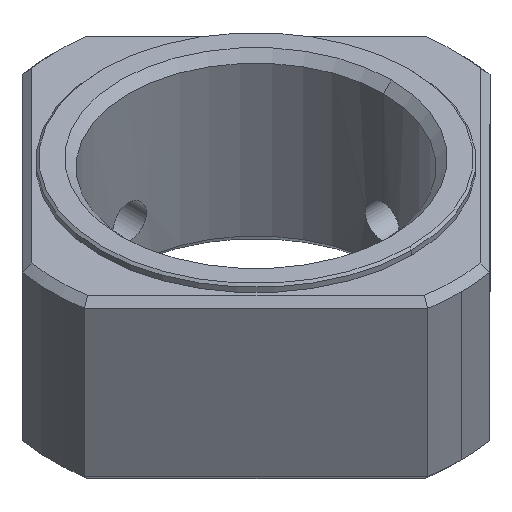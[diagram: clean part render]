
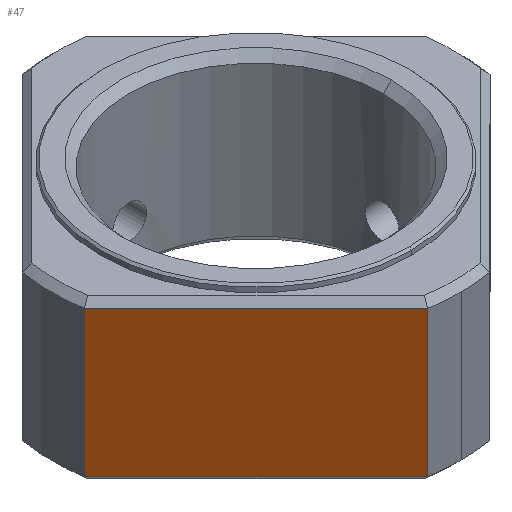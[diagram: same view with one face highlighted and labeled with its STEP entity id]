
A CAD part, isometric view. The second image highlights one B-rep face of the part: STEP entity #47.
In plain terms, the highlighted planar face has unit normal (-0.707, -0.707, 0).
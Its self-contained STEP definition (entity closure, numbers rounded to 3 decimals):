
#28 = VERTEX_POINT ( 'NONE', #563 ) ;
#47 = ADVANCED_FACE ( 'NONE', ( #518 ), #725, .T. ) ;
#53 = EDGE_CURVE ( 'NONE', #151, #28, #650, .T. ) ;
#67 = EDGE_LOOP ( 'NONE', ( #504, #473, #508, #468 ) ) ;
#115 = VERTEX_POINT ( 'NONE', #680 ) ;
#122 = VERTEX_POINT ( 'NONE', #791 ) ;
#151 = VERTEX_POINT ( 'NONE', #915 ) ;
#461 = EDGE_CURVE ( 'NONE', #115, #122, #1398, .T. ) ;
#467 = EDGE_CURVE ( 'NONE', #28, #115, #1509, .T. ) ;
#468 = ORIENTED_EDGE ( 'NONE', *, *, #506, .T. ) ;
#473 = ORIENTED_EDGE ( 'NONE', *, *, #467, .T. ) ;
#504 = ORIENTED_EDGE ( 'NONE', *, *, #53, .T. ) ;
#506 = EDGE_CURVE ( 'NONE', #122, #151, #1455, .T. ) ;
#508 = ORIENTED_EDGE ( 'NONE', *, *, #461, .T. ) ;
#518 = FACE_OUTER_BOUND ( 'NONE', #67, .T. ) ;
#563 = CARTESIAN_POINT ( 'NONE',  ( -4.716, -30.639, 23. ) ) ;
#647 = DIRECTION ( 'NONE',  ( 0., 0., 1. ) ) ;
#648 = VECTOR ( 'NONE', #647, 1000. ) ;
#649 = CARTESIAN_POINT ( 'NONE',  ( -4.716, -30.639, 41.677 ) ) ;
#650 = LINE ( 'NONE', #649, #648 ) ;
#680 = CARTESIAN_POINT ( 'NONE',  ( -30.639, -4.716, 23. ) ) ;
#709 = DIRECTION ( 'NONE',  ( 0.707, -0.707, 0. ) ) ;
#710 = DIRECTION ( 'NONE',  ( -0.707, -0.707, 0. ) ) ;
#711 = CARTESIAN_POINT ( 'NONE',  ( 0., -35.355, 25. ) ) ;
#723 = AXIS2_PLACEMENT_3D ( 'NONE', #711, #710, #709 ) ;
#725 = PLANE ( 'NONE',  #723 ) ;
#791 = CARTESIAN_POINT ( 'NONE',  ( -30.639, -4.716, 1. ) ) ;
#915 = CARTESIAN_POINT ( 'NONE',  ( -4.716, -30.639, 1. ) ) ;
#1382 = DIRECTION ( 'NONE',  ( 0.707, -0.707, 0. ) ) ;
#1395 = DIRECTION ( 'NONE',  ( 0., 0., -1. ) ) ;
#1396 = VECTOR ( 'NONE', #1395, 1000. ) ;
#1397 = CARTESIAN_POINT ( 'NONE',  ( -30.639, -4.716, 41.677 ) ) ;
#1398 = LINE ( 'NONE', #1397, #1396 ) ;
#1453 = VECTOR ( 'NONE', #1382, 1000. ) ;
#1454 = CARTESIAN_POINT ( 'NONE',  ( -4.716, -30.639, 1. ) ) ;
#1455 = LINE ( 'NONE', #1454, #1453 ) ;
#1506 = DIRECTION ( 'NONE',  ( -0.707, 0.707, 0. ) ) ;
#1507 = VECTOR ( 'NONE', #1506, 1000. ) ;
#1508 = CARTESIAN_POINT ( 'NONE',  ( -30.639, -4.716, 23. ) ) ;
#1509 = LINE ( 'NONE', #1508, #1507 ) ;
